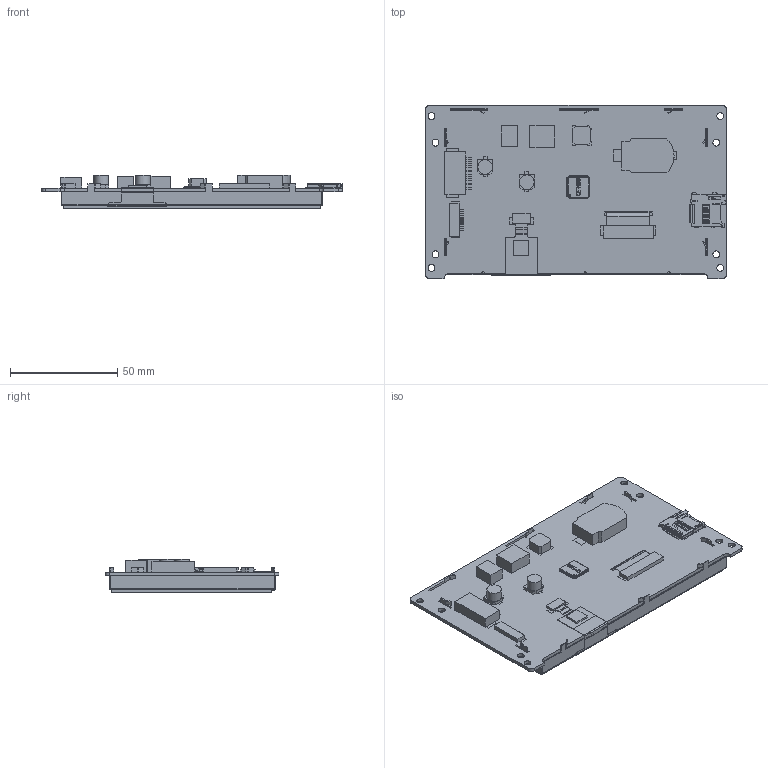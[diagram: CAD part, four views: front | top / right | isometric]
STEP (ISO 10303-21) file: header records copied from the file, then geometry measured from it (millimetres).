
FILE_DESCRIPTION(/* description */ (''),/* implementation_level */ '2;1');
FILE_NAME(/* name */ '',/* time_stamp */ '2021-08-24T10:31:55+08:00',/* author */ (''),/* organization */ (''),/* preprocessor_version */ 'ST-DEVELOPER v11',/* originating_system */ 'SIEMENS PLM Software NX 7.5',/* authorisation */ '');
FILE_SCHEMA (('AP203_CONFIGURATION_CONTROLLED_3D_DESIGN_OF_MECHANICAL_PARTS_AND_ASSEMBLIES_MIM_LF'));
Products named in the file (1): SDWb050T84C
Bounding box: 140 x 80.9 x 15.61 mm (x, y, z)
Volume: 38440 mm3; surface area: 59217.8 mm2
Topology: 23 solids, 23 shells, 2463 faces, 7153 edges, 4809 vertices
Faces by surface type: plane 2014, cylinder 441, bspline 7, cone 1
Full cylindrical faces by diameter (mm): 3.2 x8, 6.776 x2
Entity records: 83311 total; most frequent: CARTESIAN_POINT 14804, ORIENTED_EDGE 14090, DIRECTION 12879, EDGE_CURVE 7045, LINE 6183, VECTOR 6183, VERTEX_POINT 4628, AXIS2_PLACEMENT_3D 3348
